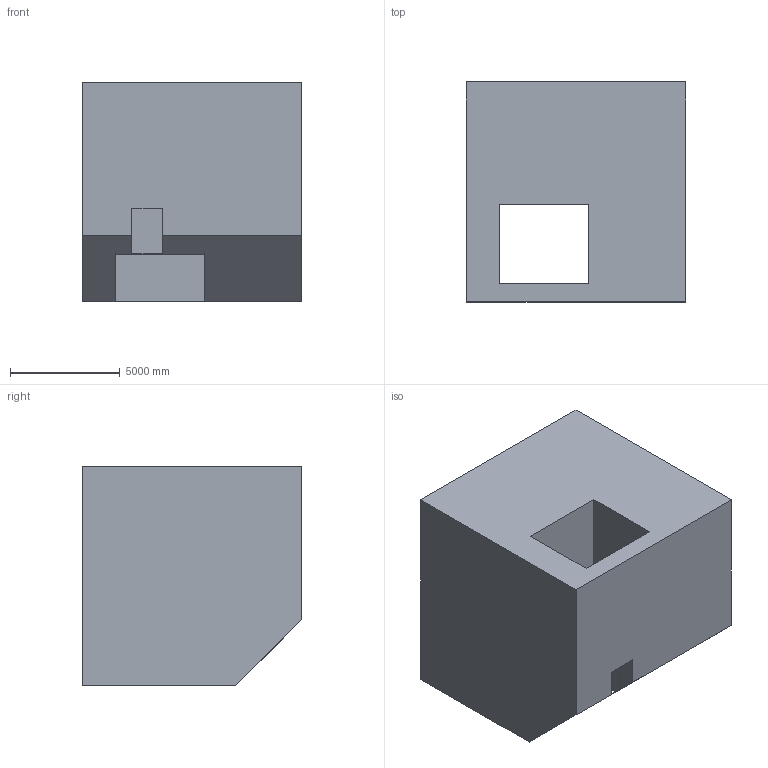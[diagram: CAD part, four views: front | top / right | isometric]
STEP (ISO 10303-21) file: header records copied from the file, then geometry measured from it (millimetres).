
FILE_DESCRIPTION (( 'STEP AP203' ), '1' );
FILE_NAME ('1207.STEP', '2022-08-18T13:11:20', ( 'user' ), ( '' ), 'SwSTEP 2.0', 'SolidWorks 2021', '' );
FILE_SCHEMA (( 'CONFIG_CONTROL_DESIGN' ));
Length unit declared in the file: centimetre
Products named in the file (1): 1207
Bounding box: 10000 x 10000 x 10000 mm (x, y, z)
Volume: 815749475564.5 mm3; surface area: 677907055.7 mm2
Topology: 1 solids, 1 shells, 15 faces, 45 edges, 30 vertices
Faces by surface type: plane 15
Entity records: 584 total; most frequent: CARTESIAN_POINT 91, ORIENTED_EDGE 90, DIRECTION 77, VECTOR 45, EDGE_CURVE 45, LINE 45, VERTEX_POINT 30, EDGE_LOOP 17
